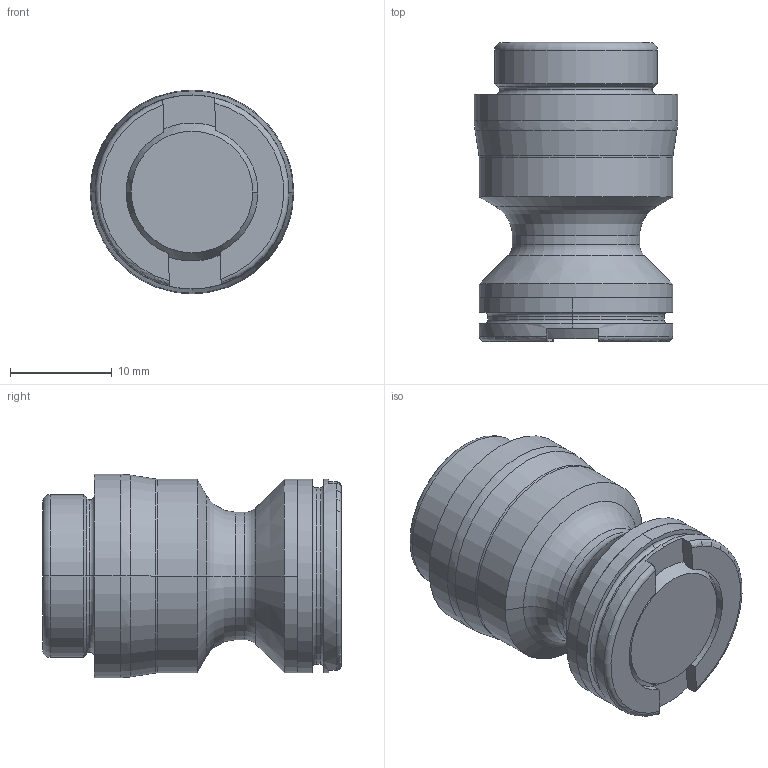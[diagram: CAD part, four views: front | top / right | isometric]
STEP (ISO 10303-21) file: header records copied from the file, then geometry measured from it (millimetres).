
FILE_DESCRIPTION (( 'STEP AP214' ), '1' );
FILE_NAME ('D_PS20F-PY.STEP', '2020-03-19T16:14:59', ( '' ), ( '' ), 'SwSTEP 2.0', 'SolidWorks 2018', '' );
FILE_SCHEMA (( 'AUTOMOTIVE_DESIGN' ));
Length unit declared in the file: millimetre
Products named in the file (3): D_PS20F-PY_HARD TURN; D_RL96-PY; D_PS20F-PY
Assembly tree (2 placements, depth 2):
  D_PS20F-PY
    D_PS20F-PY_HARD TURN
    D_RL96-PY
Bounding box: 19.97 x 29.34 x 19.97 mm (x, y, z)
Volume: 6881.1 mm3; surface area: 2932.1 mm2
Topology: 2 solids, 2 shells, 67 faces, 146 edges, 86 vertices
Faces by surface type: torus 22, cylinder 18, plane 15, cone 12
Entity records: 2049 total; most frequent: DIRECTION 376, CARTESIAN_POINT 336, ORIENTED_EDGE 292, AXIS2_PLACEMENT_3D 166, EDGE_CURVE 146, CIRCLE 94, VERTEX_POINT 86, EDGE_LOOP 72
